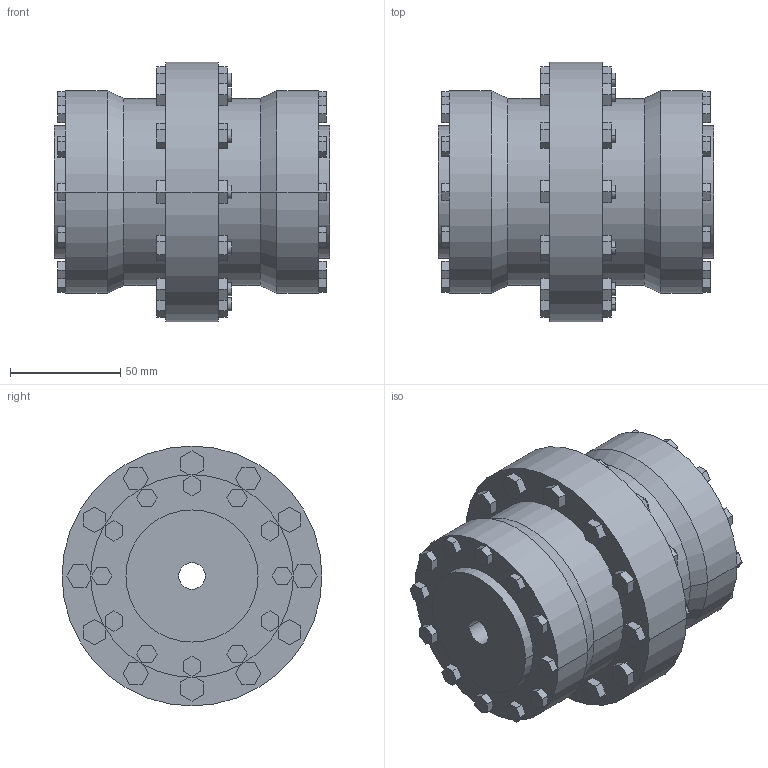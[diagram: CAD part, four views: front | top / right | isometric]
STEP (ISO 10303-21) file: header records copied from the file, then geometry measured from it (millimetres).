
FILE_DESCRIPTION((''),'2;1');
FILE_NAME('A18892500-0_ASM','2019-05-23T',('AB_Roschiwal'),('RENK AG'),'PRO/ENGINEER BY PARAMETRIC TECHNOLOGY CORPORATION, 2015440','PRO/ENGINEER BY PARAMETRIC TECHNOLOGY CORPORATION, 2015440','');
FILE_SCHEMA(('CONFIG_CONTROL_DESIGN'));
Length unit declared in the file: millimetre
Products named in the file (3): SBK38_GEHAEUSE; SBK38_NABE; A18892500-0_ASM
Assembly tree (3 placements, depth 2):
  A18892500-0_ASM
    SBK38_GEHAEUSE
    SBK38_NABE  x2
Bounding box: 125 x 118 x 118 mm (x, y, z)
Volume: 715179.7 mm3; surface area: 135254.2 mm2
Topology: 3 solids, 3 shells, 422 faces, 1036 edges, 688 vertices
Faces by surface type: plane 362, cylinder 56, cone 4
Entity records: 12052 total; most frequent: CARTESIAN_POINT 2100, ORIENTED_EDGE 2024, DIRECTION 1940, EDGE_CURVE 1012, VECTOR 916, LINE 916, VERTEX_POINT 672, AXIS2_PLACEMENT_3D 512
